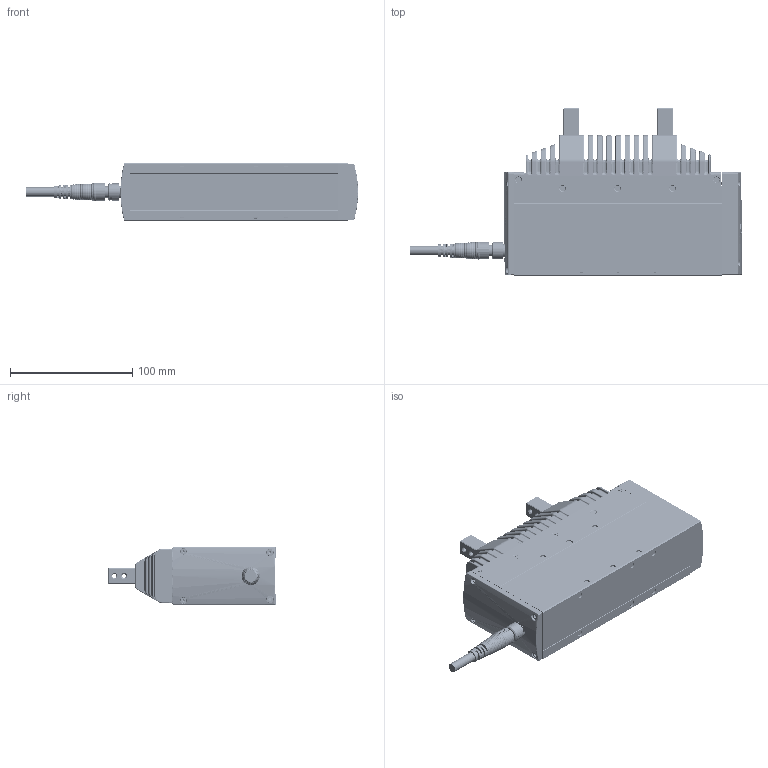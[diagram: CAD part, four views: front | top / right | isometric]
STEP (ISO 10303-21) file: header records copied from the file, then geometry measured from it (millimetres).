
FILE_DESCRIPTION(/* description */ ('STEP AP203'),/* implementation_level */ '2;1');
FILE_NAME(/* name */ 'D:\2025.02.25 帶電匯整給泊舟\3. CHS2系列\4.3D組立\2C-S68\CHS2C-S68-180.stp',/* time_stamp */ '2025-02-25T18:33:23+08:00',/* author */ ('T10033'),/* organization */ (''),/* preprocessor_version */ 'ST-DEVELOPER v18.1',/* originating_system */ 'Autodesk Inventor 2020',/* authorisation */ '');
FILE_SCHEMA (('CONFIG_CONTROL_DESIGN'));
Products named in the file (7): CHS2C-S68; M12 -14PIN  板端-第一種規格; M12-14PIN 線端180度接頭-05中繼線; 2T6354T34W; 12004-0000000_¹w³]_¾÷¾¹¥[
¤u_; ª¿½¦®M-S68-1.0; 63T6ER_Shrinkwrap_1
Assembly tree (7 placements, depth 3):
  CHS2C-S68
    M12 -14PIN  板端-第一種規格
    M12-14PIN 線端180度接頭-05中繼線
    2T6354T34W
      12004-0000000_¹w³]_¾÷¾¹¥[
¤u_  x2
      ª¿½¦®M-S68-1.0
    63T6ER_Shrinkwrap_1
Bounding box: 271.37 x 137 x 48 mm (x, y, z)
Volume: 755252.2 mm3; surface area: 160977.4 mm2
Topology: 25 solids, 25 shells, 4783 faces, 12658 edges, 7856 vertices
Faces by surface type: plane 1558, cylinder 1376, bspline 840, cone 575, torus 354, sphere 80
Full cylindrical faces by diameter (mm): 0.6 x14, 0.65 x14, 0.8 x2, 1 x14, 2 x2, 2.5 x146, 3 x10, 3.3 x4, 3.5 x8, 4.5 x6, 4.7 x10, 5 x19, 5.2 x8, 5.5 x2, 7.5 x1, 8 x1, 8.9 x1, 9.5 x2, 9.6 x1, 10.5 x2, 11 x1, 11.2 x5, 12 x1, 13 x1, 13.8 x1, 14 x2, 17.482 x1
Entity records: 200352 total; most frequent: CARTESIAN_POINT 84443, ORIENTED_EDGE 24330, DIRECTION 24045, EDGE_CURVE 12165, AXIS2_PLACEMENT_3D 9603, VERTEX_POINT 7688, CIRCLE 5345, EDGE_LOOP 5005
